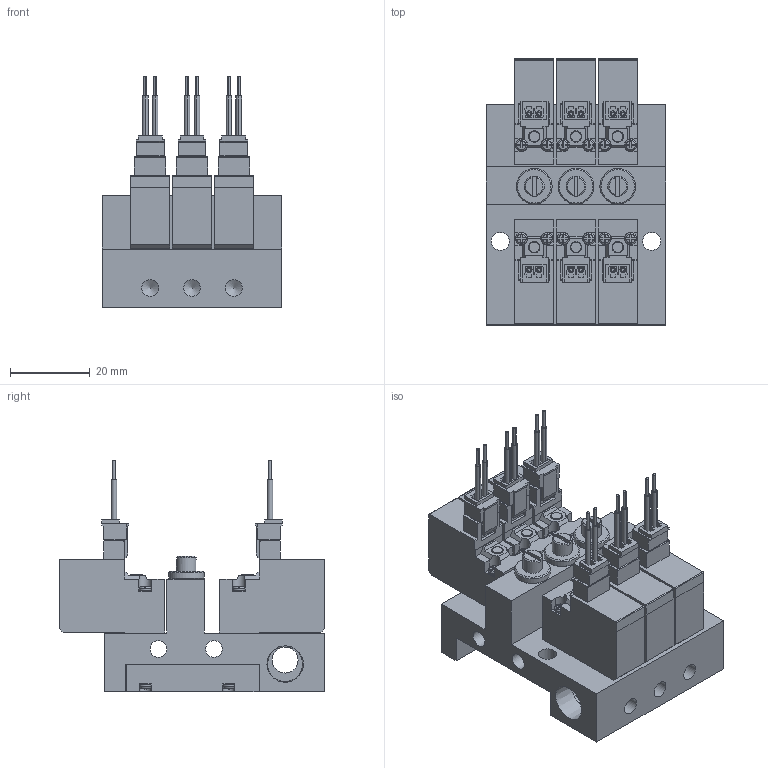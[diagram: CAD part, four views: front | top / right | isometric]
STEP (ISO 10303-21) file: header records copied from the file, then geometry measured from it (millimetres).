
FILE_DESCRIPTION(('STEP AP203'),'1');
FILE_NAME('3-NC-4EZ-M03.stp','2025-05-09T01:01:27',(' '),(' '),'Spatial InterOp 3D',' ',' ');
FILE_SCHEMA(('CONFIG_CONTROL_DESIGN'));
Length unit declared in the file: millimetre
Products named in the file (47): PV1※3-NC-4EZ-M03; BODY; PLATE; NEEDLE; BOLT; SOLENOID VALVE VOLTAGE PV; 42; 45; 48; 51
Assembly tree (46 placements, depth 3):
  PV1※3-NC-4EZ-M03
    BODY
    PLATE
    PLATE
    NEEDLE
    BOLT
    BOLT
    BOLT
    BOLT
    BOLT
    BOLT
    SOLENOID VALVE VOLTAGE PV
      42
      45
      48
      51
    SOLENOID VALVE VOLTAGE PV
      42
      45
      48
      51
    SOLENOID VALVE VOLTAGE PV
      42
      45
      48
      51
    NEEDLE
    SOLENOID VALVE VOLTAGE PV
      42
      45
      48
      51
    SOLENOID VALVE VOLTAGE PV
      42
      45
      48
      51
    NEEDLE
    SOLENOID VALVE VOLTAGE PV
      42
      45
      48
      51
    PLATE
    BOLT
    BOLT
    BOLT
Bounding box: 45 x 66.8 x 58.25 mm (x, y, z)
Volume: 63576.1 mm3; surface area: 35995.1 mm2
Topology: 40 solids, 40 shells, 1462 faces, 4148 edges, 2861 vertices
Faces by surface type: plane 1030, cylinder 292, torus 78, bspline 42, cone 20
Full cylindrical faces by diameter (mm): 2 x9, 3 x9, 4.2 x8, 4.5 x2, 5 x3, 6.5 x1, 8.797 x2, 9 x3
Entity records: 50556 total; most frequent: CARTESIAN_POINT 9224, DIRECTION 8294, ORIENTED_EDGE 8090, EDGE_CURVE 4045, AXIS2_PLACEMENT_3D 2872, VERTEX_POINT 2830, LINE 2550, VECTOR 2550
